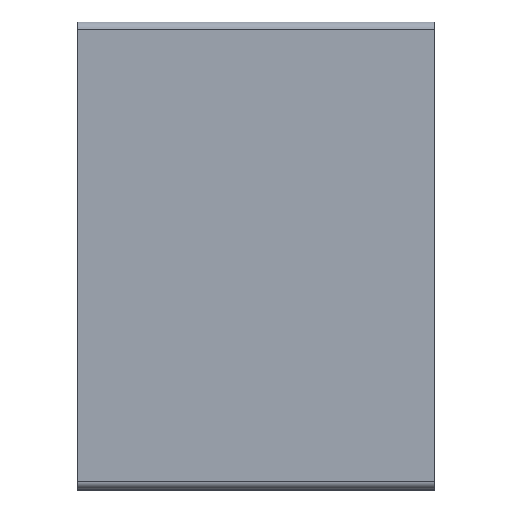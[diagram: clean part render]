
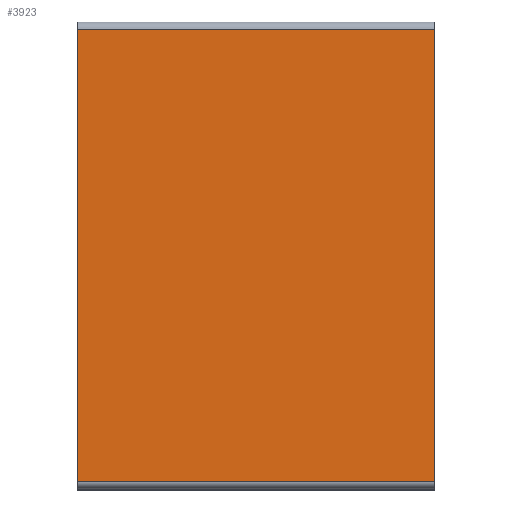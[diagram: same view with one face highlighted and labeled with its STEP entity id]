
A CAD part, top view. The second image highlights one B-rep face of the part: STEP entity #3923.
In plain terms, the highlighted planar face has unit normal (0, 0, 1).
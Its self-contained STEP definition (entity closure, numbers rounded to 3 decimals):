
#1750 = LINE ( 'NONE', #8693, #1753 ) ;
#1753 = VECTOR ( 'NONE', #8694, 1000. ) ;
#3923 = ADVANCED_FACE ( 'NONE', ( #13830 ), #14785, .T. ) ;
#5267 = ORIENTED_EDGE ( 'NONE', *, *, #11479, .T. ) ;
#5268 = ORIENTED_EDGE ( 'NONE', *, *, #10802, .T. ) ;
#5269 = ORIENTED_EDGE ( 'NONE', *, *, #11003, .T. ) ;
#5271 = ORIENTED_EDGE ( 'NONE', *, *, #16442, .T. ) ;
#6104 = VERTEX_POINT ( 'NONE', #15319 ) ;
#6164 = VERTEX_POINT ( 'NONE', #15332 ) ;
#6398 = VERTEX_POINT ( 'NONE', #15394 ) ;
#6843 = VERTEX_POINT ( 'NONE', #15506 ) ;
#6889 = EDGE_LOOP ( 'NONE', ( #5271, #5269, #5268, #5267 ) ) ;
#8693 = CARTESIAN_POINT ( 'NONE',  ( 22.5, 0., 65.3 ) ) ;
#8694 = DIRECTION ( 'NONE',  ( 0., 1., 0. ) ) ;
#9011 = CARTESIAN_POINT ( 'NONE',  ( 22.5, 28.5, 65.3 ) ) ;
#9012 = DIRECTION ( 'NONE',  ( -1., 0., 0. ) ) ;
#9782 = DIRECTION ( 'NONE',  ( 1., 0., 0. ) ) ;
#9786 = CARTESIAN_POINT ( 'NONE',  ( 22.5, -28.5, 65.3 ) ) ;
#10802 = EDGE_CURVE ( 'NONE', #6843, #6104, #14040, .T. ) ;
#11003 = EDGE_CURVE ( 'NONE', #6398, #6843, #14358, .T. ) ;
#11479 = EDGE_CURVE ( 'NONE', #6104, #6164, #11913, .T. ) ;
#11913 = LINE ( 'NONE', #9786, #11920 ) ;
#11920 = VECTOR ( 'NONE', #9782, 1000. ) ;
#13355 = AXIS2_PLACEMENT_3D ( 'NONE', #14780, #14788, #14789 ) ;
#13830 = FACE_OUTER_BOUND ( 'NONE', #6889, .T. ) ;
#14040 = LINE ( 'NONE', #15668, #14043 ) ;
#14043 = VECTOR ( 'NONE', #15670, 1000. ) ;
#14358 = LINE ( 'NONE', #9011, #14361 ) ;
#14361 = VECTOR ( 'NONE', #9012, 1000. ) ;
#14780 = CARTESIAN_POINT ( 'NONE',  ( 22.5, 0., 65.3 ) ) ;
#14785 = PLANE ( 'NONE',  #13355 ) ;
#14788 = DIRECTION ( 'NONE',  ( 0., 0., 1. ) ) ;
#14789 = DIRECTION ( 'NONE',  ( 0., -1., 0. ) ) ;
#15319 = CARTESIAN_POINT ( 'NONE',  ( -22.5, -28.5, 65.3 ) ) ;
#15332 = CARTESIAN_POINT ( 'NONE',  ( 22.5, -28.5, 65.3 ) ) ;
#15394 = CARTESIAN_POINT ( 'NONE',  ( 22.5, 28.5, 65.3 ) ) ;
#15506 = CARTESIAN_POINT ( 'NONE',  ( -22.5, 28.5, 65.3 ) ) ;
#15668 = CARTESIAN_POINT ( 'NONE',  ( -22.5, 0., 65.3 ) ) ;
#15670 = DIRECTION ( 'NONE',  ( 0., -1., 0. ) ) ;
#16442 = EDGE_CURVE ( 'NONE', #6164, #6398, #1750, .T. ) ;
